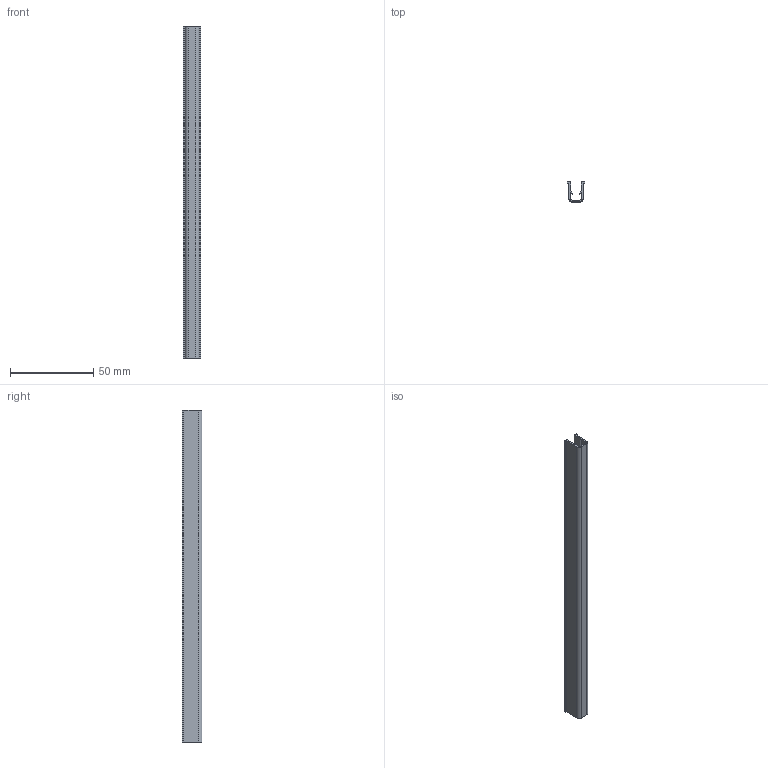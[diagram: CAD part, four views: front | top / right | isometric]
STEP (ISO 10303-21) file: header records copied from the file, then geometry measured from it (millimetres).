
FILE_DESCRIPTION((''),'2;1');
FILE_NAME('E:\catalogue and flyer\Profile catalogue 2015\Accessories ACC info\Accessories ACC step file 31Mar16\ACC-US2000-8.stp','2016-04-07T15:19:35',('h029'),(''),'Autodesk Inventor 11','Autodesk Inventor 11','');
FILE_SCHEMA(('AUTOMOTIVE_DESIGN { 1 0 10303 214 1 1 1 1 }'));
Length unit declared in the file: millimetre
Products named in the file (1): ACC-US2000-8
Bounding box: 10.5 x 12 x 200 mm (x, y, z)
Volume: 6515.7 mm3; surface area: 14415.7 mm2
Topology: 1 solids, 1 shells, 24 faces, 66 edges, 44 vertices
Faces by surface type: plane 20, cylinder 4
Entity records: 781 total; most frequent: CARTESIAN_POINT 135, ORIENTED_EDGE 132, DIRECTION 124, EDGE_CURVE 66, VECTOR 58, LINE 58, VERTEX_POINT 44, AXIS2_PLACEMENT_3D 33
